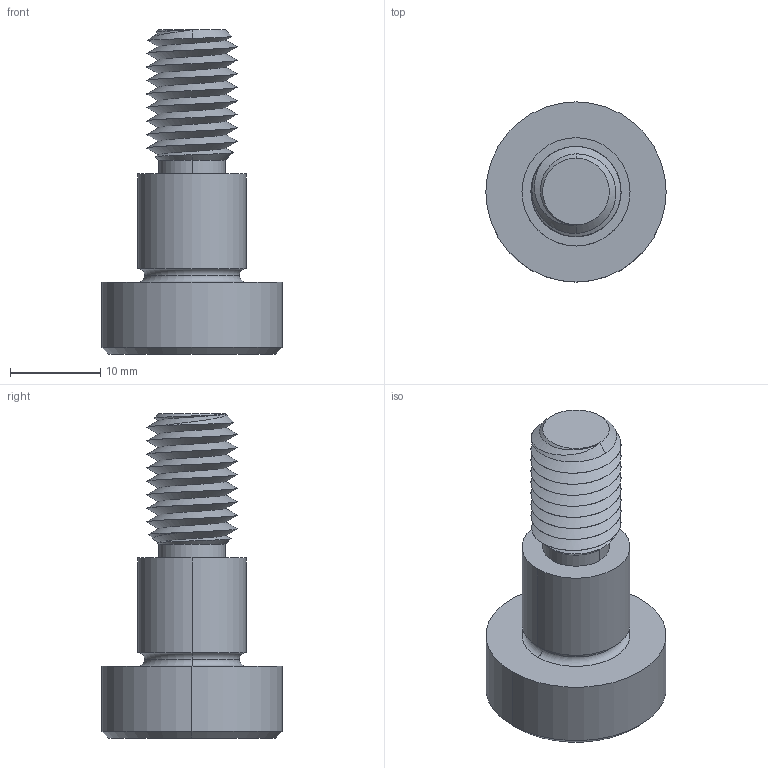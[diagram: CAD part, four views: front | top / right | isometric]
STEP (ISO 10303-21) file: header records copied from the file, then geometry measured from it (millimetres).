
FILE_DESCRIPTION (( 'STEP AP203' ), '1' );
FILE_NAME ('P0130.120-012-B2.step', '2021-11-09T22:01:51', ( '' ), ( '' ), 'SwSTEP 2.0', 'SolidWorks 2019', '' );
FILE_SCHEMA (( 'CONFIG_CONTROL_DESIGN' ));
Length unit declared in the file: millimetre
Products named in the file (1): P0130.120-012-B2
Bounding box: 20 x 20 x 36 mm (x, y, z)
Volume: 4536 mm3; surface area: 2509.6 mm2
Topology: 1 solids, 1 shells, 60 faces, 142 edges, 85 vertices
Faces by surface type: cylinder 23, plane 16, cone 15, torus 4, bspline 2
Entity records: 3534 total; most frequent: CARTESIAN_POINT 2187, ORIENTED_EDGE 280, DIRECTION 247, EDGE_CURVE 140, AXIS2_PLACEMENT_3D 99, VERTEX_POINT 85, EDGE_LOOP 63, FACE_OUTER_BOUND 60
